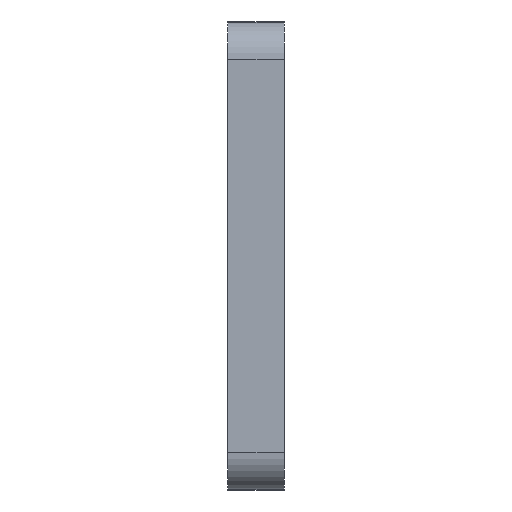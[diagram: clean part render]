
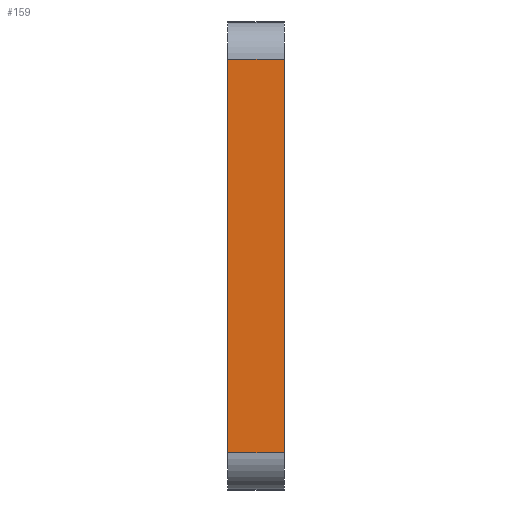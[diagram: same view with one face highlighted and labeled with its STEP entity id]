
A CAD part, left-side view. The second image highlights one B-rep face of the part: STEP entity #159.
In plain terms, the highlighted planar face has unit normal (-1, 0, 0).
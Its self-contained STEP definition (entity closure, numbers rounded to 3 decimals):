
#10 = EDGE_LOOP ( 'NONE', ( #318, #549, #1333, #351 ) ) ;
#102 = EDGE_CURVE ( 'NONE', #1259, #254, #313, .T. ) ;
#159 = ADVANCED_FACE ( 'NONE', ( #535 ), #246, .T. ) ;
#199 = CARTESIAN_POINT ( 'NONE',  ( -79., 0., -10.5 ) ) ;
#208 = VECTOR ( 'NONE', #979, 1000. ) ;
#221 = VERTEX_POINT ( 'NONE', #591 ) ;
#235 = LINE ( 'NONE', #1212, #906 ) ;
#246 = PLANE ( 'NONE',  #625 ) ;
#248 = DIRECTION ( 'NONE',  ( -1., 0., 0. ) ) ;
#254 = VERTEX_POINT ( 'NONE', #632 ) ;
#313 = LINE ( 'NONE', #432, #208 ) ;
#318 = ORIENTED_EDGE ( 'NONE', *, *, #615, .F. ) ;
#351 = ORIENTED_EDGE ( 'NONE', *, *, #925, .T. ) ;
#397 = DIRECTION ( 'NONE',  ( 0., -1., 0. ) ) ;
#432 = CARTESIAN_POINT ( 'NONE',  ( -79., 3., 10.5 ) ) ;
#456 = EDGE_CURVE ( 'NONE', #1259, #221, #799, .T. ) ;
#535 = FACE_OUTER_BOUND ( 'NONE', #10, .T. ) ;
#541 = CARTESIAN_POINT ( 'NONE',  ( -79., 3., 10.5 ) ) ;
#542 = DIRECTION ( 'NONE',  ( 0., -1., 0. ) ) ;
#549 = ORIENTED_EDGE ( 'NONE', *, *, #456, .F. ) ;
#572 = VECTOR ( 'NONE', #542, 1000. ) ;
#591 = CARTESIAN_POINT ( 'NONE',  ( -79., 0., 10.5 ) ) ;
#592 = VERTEX_POINT ( 'NONE', #199 ) ;
#615 = EDGE_CURVE ( 'NONE', #221, #592, #235, .T. ) ;
#625 = AXIS2_PLACEMENT_3D ( 'NONE', #541, #248, #854 ) ;
#632 = CARTESIAN_POINT ( 'NONE',  ( -79., 3., -10.5 ) ) ;
#746 = LINE ( 'NONE', #1216, #572 ) ;
#799 = LINE ( 'NONE', #1277, #1134 ) ;
#854 = DIRECTION ( 'NONE',  ( 0., 0., 1. ) ) ;
#906 = VECTOR ( 'NONE', #1272, 1000. ) ;
#925 = EDGE_CURVE ( 'NONE', #254, #592, #746, .T. ) ;
#979 = DIRECTION ( 'NONE',  ( 0., 0., -1. ) ) ;
#1050 = CARTESIAN_POINT ( 'NONE',  ( -79., 3., 10.5 ) ) ;
#1134 = VECTOR ( 'NONE', #397, 1000. ) ;
#1212 = CARTESIAN_POINT ( 'NONE',  ( -79., 0., 10.5 ) ) ;
#1216 = CARTESIAN_POINT ( 'NONE',  ( -79., 3., -10.5 ) ) ;
#1259 = VERTEX_POINT ( 'NONE', #1050 ) ;
#1272 = DIRECTION ( 'NONE',  ( 0., 0., -1. ) ) ;
#1277 = CARTESIAN_POINT ( 'NONE',  ( -79., 3., 10.5 ) ) ;
#1333 = ORIENTED_EDGE ( 'NONE', *, *, #102, .T. ) ;
